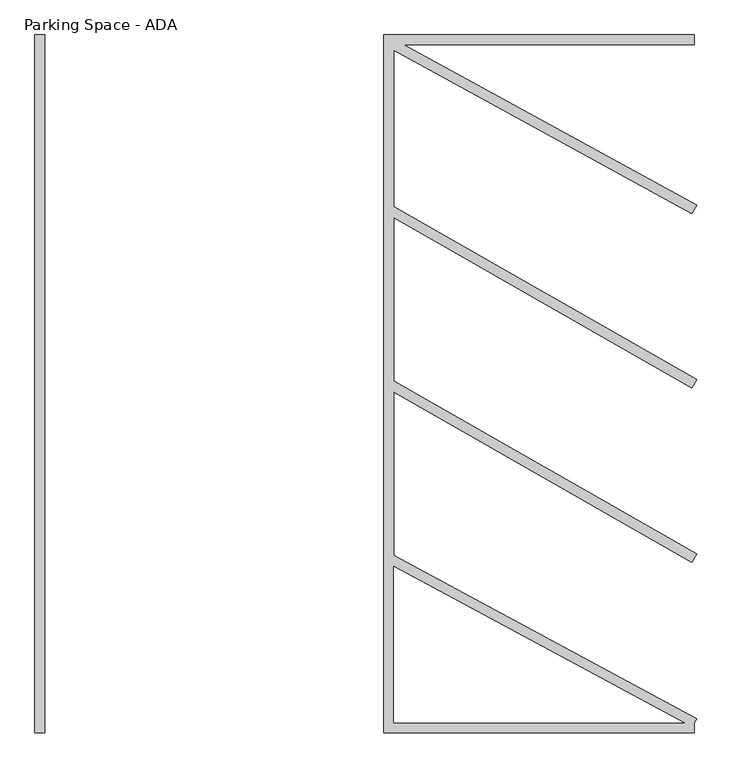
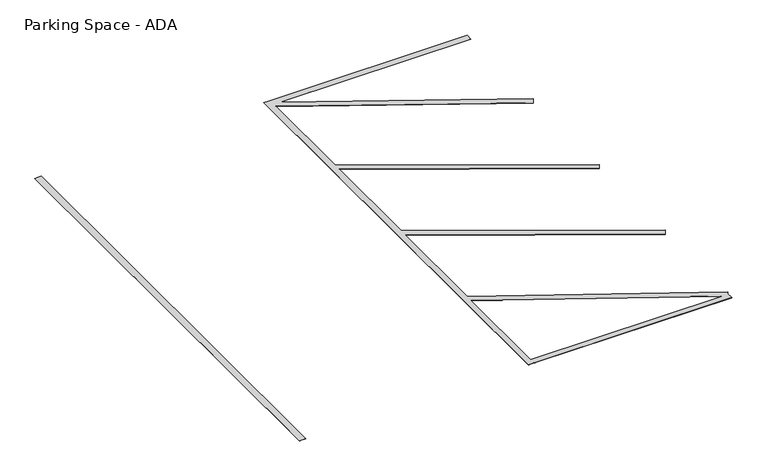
"""IFC4 building model written with IfcOpenShell, lengths in millimetres: proxy geometry, Parking Space - ADA : 9' x 18' (8' Aisle)."""

from ifc_helpers import new_model, si_unit, origin, origin_with_axes, place, context, project, spatial, polyline, outline, extrude, source, transform, mapped, element, save


def parking_space_ada_2abbe88e(model_context):
    return source(origin(), model_context, "Body", "SweptSolid", [
        extrude(outline(polyline([(4046.2620479, -859.2253385), (3970.0620479, -859.2253385), (3970.0620479, 4627.1746615), (4046.2620479, 4627.1746615), (6408.4620479, 4627.1746615), (6408.4620479, 4550.9746615), (4125.4996019, 4550.9746615), (6426.7817704, 3288.9812143), (6390.1423254, 3222.1681088), (4046.2620479, 4507.5218093), (4046.2620479, 3277.6849501), (6427.3649414, 1917.0547253), (6389.5591543, 1850.8945978), (4046.2620479, 3189.9215158), (4046.2620479, 1906.0849501), (6427.3649414, 545.4547253), (6389.5591543, 479.2945978), (4046.2620479, 1818.3215158), (4046.2620479, 535.1071205), (6426.55698, -749.4964937), (6408.4620479, -783.0253385), (6408.4620479, -859.2253385), (4046.2620479, -859.2253385)]), holes=[polyline([(6328.2401387, -783.0253385), (4046.2620479, 448.5183931), (4046.2620479, -783.0253385), (6328.2401387, -783.0253385)])]), origin_with_axes(), (0.0, 0.0, 1.0), 1.5875),
        extrude(outline(polyline([(1303.0620479, -859.2253385), (1226.8620479, -859.2253385), (1226.8620479, 4627.1746615), (1303.0620479, 4627.1746615), (1303.0620479, -859.2253385)])), origin_with_axes(), (0.0, 0.0, 1.0), 1.5875),
    ])


if __name__ == "__main__":
    model = new_model("IFC4")
    model_context = context("Model", 3, world=origin())
    ifc_project = project(units=[si_unit("LENGTHUNIT", "METRE", prefix="MILLI")], contexts=[model_context])
    site = spatial("IfcSite", under=ifc_project)
    building = spatial("IfcBuilding", under=site)
    placement = place(None, origin())
    parking_space_ada_shape = parking_space_ada_2abbe88e(model_context)
    element("IfcBuildingElementProxy", 1, Name="Parking Space - ADA : 9' x 18' (8' Aisle)", ObjectType="Parking Space - ADA : 9' x 18' (8' Aisle)", at=placement, inside=building, context=model_context, shape_type="MappedRepresentation", body=[
        mapped(parking_space_ada_shape, transform((0.0, 0.0, 0.0), x_axis=(1.0, 0.0, 0.0), y_axis=(0.0, 1.0, 0.0), z_axis=(0.0, 0.0, 1.0))),
    ])
    save(model, "model.ifc")
